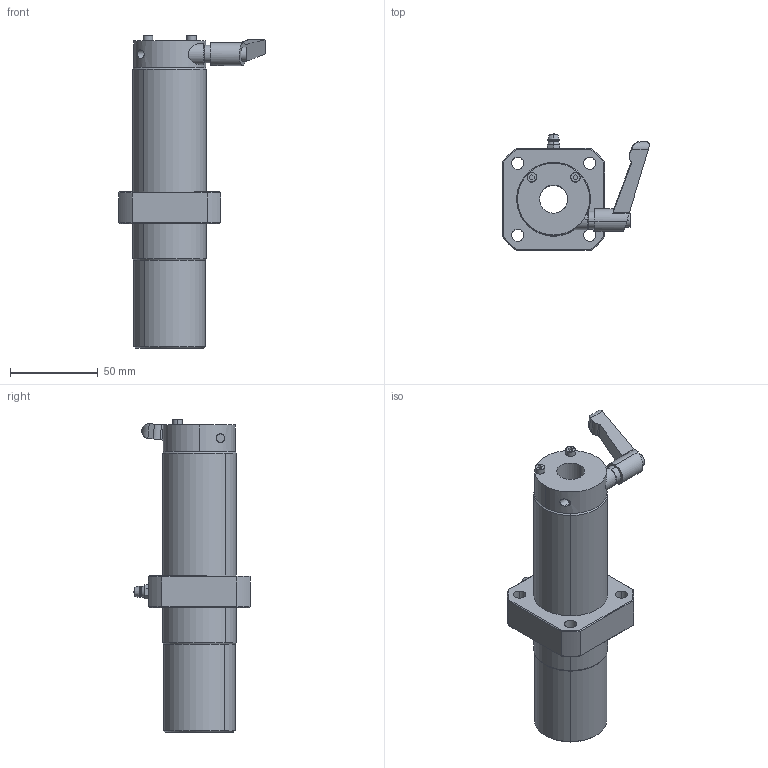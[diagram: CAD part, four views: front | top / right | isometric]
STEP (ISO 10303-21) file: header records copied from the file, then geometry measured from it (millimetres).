
FILE_DESCRIPTION (( 'STEP AP214' ), '1' );
FILE_NAME ('LFWLC16-C.STEP', '2023-06-27T02:50:30', ( '' ), ( '' ), 'SwSTEP 2.0', 'SolidWorks 2019', '' );
FILE_SCHEMA (( 'AUTOMOTIVE_DESIGN' ));
Length unit declared in the file: millimetre
Products named in the file (3): “ÁSCK1615CO-S3.4; LFWLC16-C; LFWLC16
Assembly tree (2 placements, depth 2):
  LFWLC16-C
    LFWLC16
    “ÁSCK1615CO-S3.4
Bounding box: 83.5 x 66.4 x 178 mm (x, y, z)
Volume: 237023.1 mm3; surface area: 50879.7 mm2
Topology: 3 solids, 9 shells, 262 faces, 626 edges, 391 vertices
Faces by surface type: cylinder 87, plane 78, bspline 47, cone 38, torus 8, sphere 4
Entity records: 11493 total; most frequent: CARTESIAN_POINT 2429, DIRECTION 1310, ORIENTED_EDGE 1248, EDGE_CURVE 624, AXIS2_PLACEMENT_3D 543, VERTEX_POINT 390, CIRCLE 323, EDGE_LOOP 312
